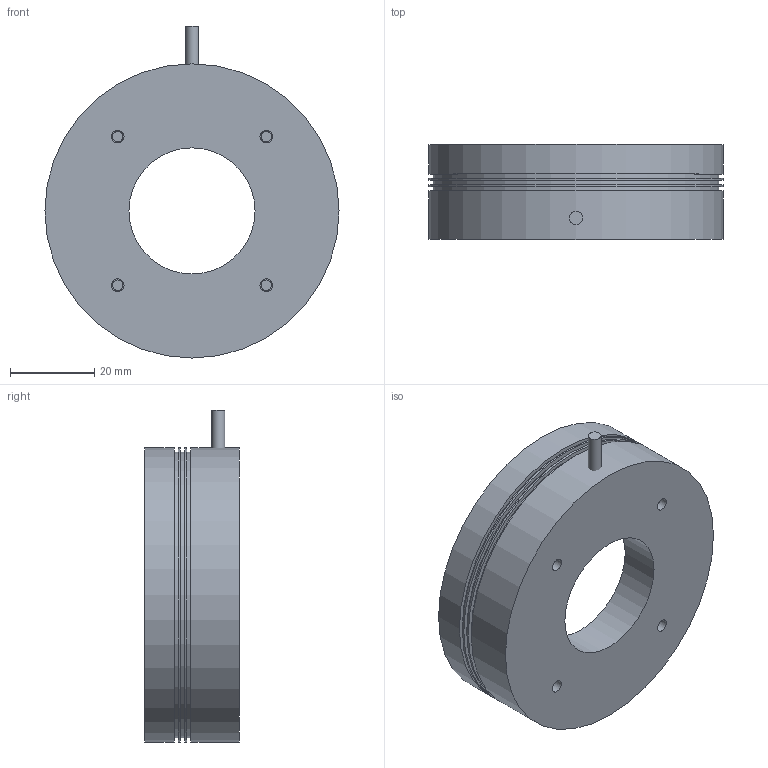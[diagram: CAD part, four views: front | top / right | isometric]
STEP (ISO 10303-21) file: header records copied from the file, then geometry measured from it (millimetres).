
FILE_DESCRIPTION(/* description */ (''),/* implementation_level */ '2;1');
FILE_NAME(/* name */ 'C:\#Vault-WorkDir\Konstruktions-Dokumente\Projekte\Zubehör allgemein\Falcon Beleuchtungen\153-00731_LR 70 x-24-KFL5.stp',/* time_stamp */ '2018-07-25T08:58:59+02:00',/* author */ ('SensoPart'),/* organization */ ('SensoPart'),/* preprocessor_version */ 'ST-DEVELOPER v17',/* originating_system */ 'Autodesk Inventor 2018',/* authorisation */ '');
FILE_SCHEMA (('AUTOMOTIVE_DESIGN { 1 0 10303 214 3 1 1 }'));
Length unit declared in the file: millimetre
Products named in the file (1): GH-ENG-0026499_Shrinkwrap_1
Bounding box: 70 x 22.5 x 79 mm (x, y, z)
Volume: 34959.1 mm3; surface area: 17485.4 mm2
Topology: 8 solids, 8 shells, 121 faces, 294 edges, 229 vertices
Faces by surface type: plane 59, cylinder 56, sphere 6
Full cylindrical faces by diameter (mm): 0.5 x24, 2.5 x4, 2.9 x6, 3 x4, 3.1 x1, 3.2 x6, 30 x1, 65.7 x1, 65.9 x1, 67.7 x1, 68 x3, 70 x4
Entity records: 3835 total; most frequent: DIRECTION 761, CARTESIAN_POINT 639, ORIENTED_EDGE 576, AXIS2_PLACEMENT_3D 351, EDGE_CURVE 288, CIRCLE 229, VERTEX_POINT 229, EDGE_LOOP 169
